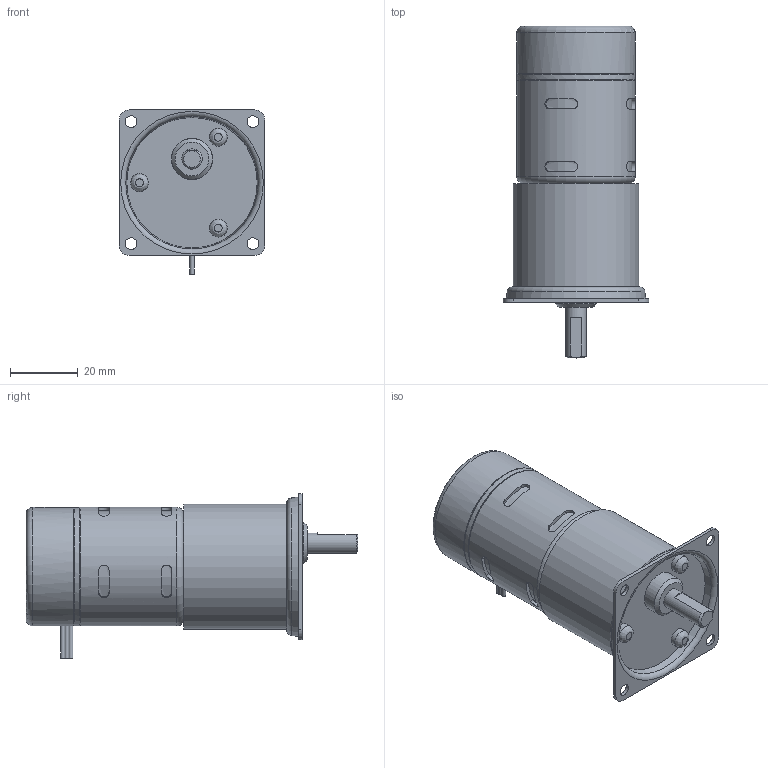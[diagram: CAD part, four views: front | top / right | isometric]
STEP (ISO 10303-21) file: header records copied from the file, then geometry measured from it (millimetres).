
FILE_DESCRIPTION((''),'2;1');
FILE_NAME('C:\Documents and Settings\SSEGAWA\デスクトップ\TP-3546B-PM-5.STP','2013-07-30T16:57:06',('SSEGAWA'),(''),'Autodesk Inventor 2010','Autodesk Inventor 2010','');
FILE_SCHEMA(('CONFIG_CONTROL_DESIGN'));
Length unit declared in the file: millimetre
Products named in the file (1): tp_3546bd_pm_5_Shrinkwrap_1
Bounding box: 43 x 98 x 48.5 mm (x, y, z)
Volume: 80091.6 mm3; surface area: 15340.4 mm2
Topology: 1 solids, 13 shells, 144 faces, 305 edges, 198 vertices
Faces by surface type: plane 62, cylinder 51, bspline 23, torus 4, cone 4
Full cylindrical faces by diameter (mm): 1.2 x2, 4 x3, 5.3 x3, 6 x1, 12 x1, 12.2 x1, 34.6 x1, 35 x3, 37 x1
Entity records: 4498 total; most frequent: CARTESIAN_POINT 1592, DIRECTION 573, ORIENTED_EDGE 474, AXIS2_PLACEMENT_3D 248, EDGE_CURVE 237, EDGE_LOOP 209, VERTEX_POINT 174, STYLED_ITEM 145
